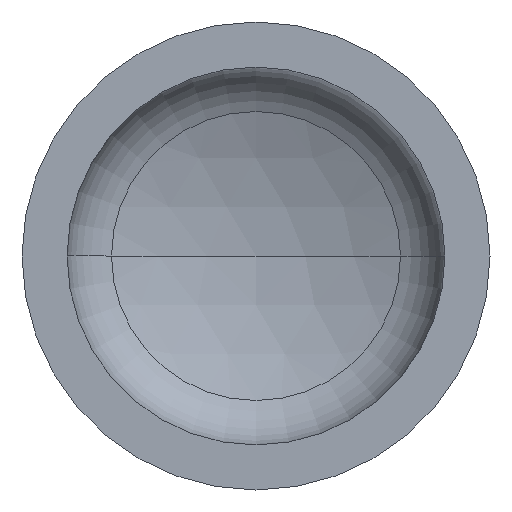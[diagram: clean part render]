
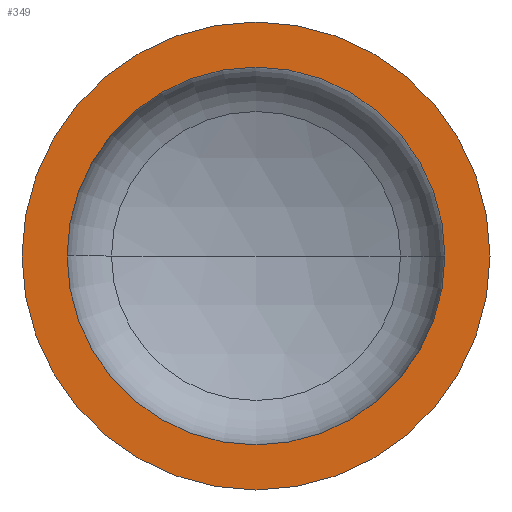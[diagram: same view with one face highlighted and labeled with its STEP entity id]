
A CAD part, front view. The second image highlights one B-rep face of the part: STEP entity #349.
In plain terms, the highlighted planar face has unit normal (0, -1, 0).
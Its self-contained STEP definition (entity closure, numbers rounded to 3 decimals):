
#1 = EDGE_LOOP ( 'NONE', ( #214, #125 ) ) ;
#10 = VERTEX_POINT ( 'NONE', #288 ) ;
#16 = AXIS2_PLACEMENT_3D ( 'NONE', #246, #380, #398 ) ;
#23 = DIRECTION ( 'NONE',  ( 0., -1., 0. ) ) ;
#25 = CARTESIAN_POINT ( 'NONE',  ( 0., 0., 0. ) ) ;
#38 = DIRECTION ( 'NONE',  ( 1., 0., 0. ) ) ;
#41 = EDGE_LOOP ( 'NONE', ( #207, #122 ) ) ;
#57 = AXIS2_PLACEMENT_3D ( 'NONE', #399, #205, #38 ) ;
#58 = AXIS2_PLACEMENT_3D ( 'NONE', #135, #66, #72 ) ;
#59 = CIRCLE ( 'NONE', #100, 550. ) ;
#65 = AXIS2_PLACEMENT_3D ( 'NONE', #25, #23, #148 ) ;
#66 = DIRECTION ( 'NONE',  ( 0., -1., 0. ) ) ;
#70 = PLANE ( 'NONE',  #16 ) ;
#72 = DIRECTION ( 'NONE',  ( 1., 0., 0. ) ) ;
#78 = VERTEX_POINT ( 'NONE', #257 ) ;
#85 = DIRECTION ( 'NONE',  ( 0., -1., 0. ) ) ;
#100 = AXIS2_PLACEMENT_3D ( 'NONE', #291, #85, #249 ) ;
#113 = FACE_OUTER_BOUND ( 'NONE', #1, .T. ) ;
#122 = ORIENTED_EDGE ( 'NONE', *, *, #248, .F. ) ;
#123 = VERTEX_POINT ( 'NONE', #325 ) ;
#125 = ORIENTED_EDGE ( 'NONE', *, *, #387, .T. ) ;
#135 = CARTESIAN_POINT ( 'NONE',  ( 0., 0., 0. ) ) ;
#148 = DIRECTION ( 'NONE',  ( 1., 0., 0. ) ) ;
#159 = CIRCLE ( 'NONE', #65, 444. ) ;
#205 = DIRECTION ( 'NONE',  ( 0., -1., 0. ) ) ;
#207 = ORIENTED_EDGE ( 'NONE', *, *, #238, .F. ) ;
#214 = ORIENTED_EDGE ( 'NONE', *, *, #366, .T. ) ;
#238 = EDGE_CURVE ( 'NONE', #78, #123, #159, .T. ) ;
#246 = CARTESIAN_POINT ( 'NONE',  ( -550., 0., 0. ) ) ;
#248 = EDGE_CURVE ( 'NONE', #123, #78, #354, .T. ) ;
#249 = DIRECTION ( 'NONE',  ( 1., 0., 0. ) ) ;
#257 = CARTESIAN_POINT ( 'NONE',  ( 444., 0., 0. ) ) ;
#277 = VERTEX_POINT ( 'NONE', #392 ) ;
#288 = CARTESIAN_POINT ( 'NONE',  ( -550., 0., 0. ) ) ;
#291 = CARTESIAN_POINT ( 'NONE',  ( 0., 0., 0. ) ) ;
#325 = CARTESIAN_POINT ( 'NONE',  ( -444., 0., 0. ) ) ;
#349 = ADVANCED_FACE ( 'NONE', ( #400, #113 ), #70, .F. ) ;
#354 = CIRCLE ( 'NONE', #58, 444. ) ;
#366 = EDGE_CURVE ( 'NONE', #277, #10, #395, .T. ) ;
#380 = DIRECTION ( 'NONE',  ( 0., 1., 0. ) ) ;
#387 = EDGE_CURVE ( 'NONE', #10, #277, #59, .T. ) ;
#392 = CARTESIAN_POINT ( 'NONE',  ( 550., 0., 0. ) ) ;
#395 = CIRCLE ( 'NONE', #57, 550. ) ;
#398 = DIRECTION ( 'NONE',  ( -1., 0., 0. ) ) ;
#399 = CARTESIAN_POINT ( 'NONE',  ( 0., 0., 0. ) ) ;
#400 = FACE_BOUND ( 'NONE', #41, .T. ) ;
